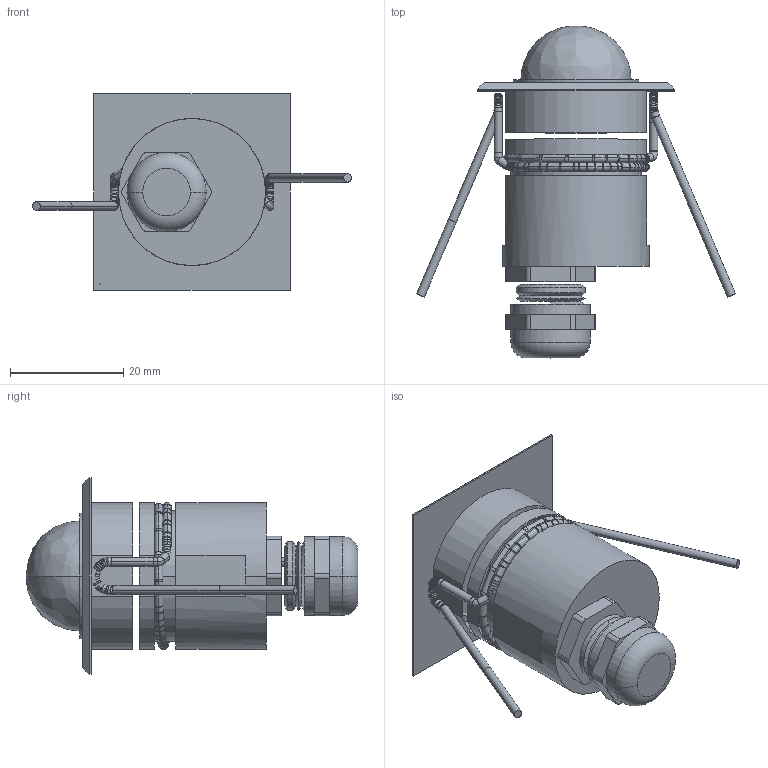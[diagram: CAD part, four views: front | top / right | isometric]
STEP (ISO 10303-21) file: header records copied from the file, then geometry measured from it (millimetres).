
FILE_DESCRIPTION((''),'2;1');
FILE_NAME('CNC35-Q_SW0003','2025-07-30T16:32:30',('Piccioli'),(''),'CREO PARAMETRIC BY PTC INC, 2025010','CREO PARAMETRIC BY PTC INC, 2025010','');
FILE_SCHEMA(('CONFIG_CONTROL_DESIGN'));
Length unit declared in the file: millimetre
Products named in the file (1): CNC35-Q_SW0003
Bounding box: 56.38 x 58.7 x 34.8 mm (x, y, z)
Surface area: 9703.7 mm2 (no closed solid volume)
Topology: 0 solids, 66 shells, 350 faces, 998 edges, 633 vertices
Faces by surface type: cylinder 223, torus 66, plane 39, bspline 13, cone 9
Entity records: 11638 total; most frequent: CARTESIAN_POINT 2473, DIRECTION 2294, ORIENTED_EDGE 1501, EDGE_CURVE 993, AXIS2_PLACEMENT_3D 980, CIRCLE 643, VERTEX_POINT 633, EDGE_LOOP 350
